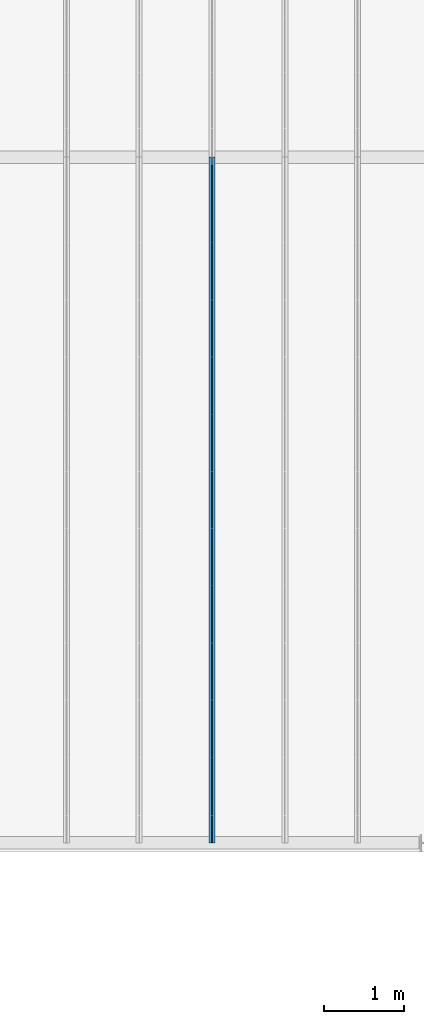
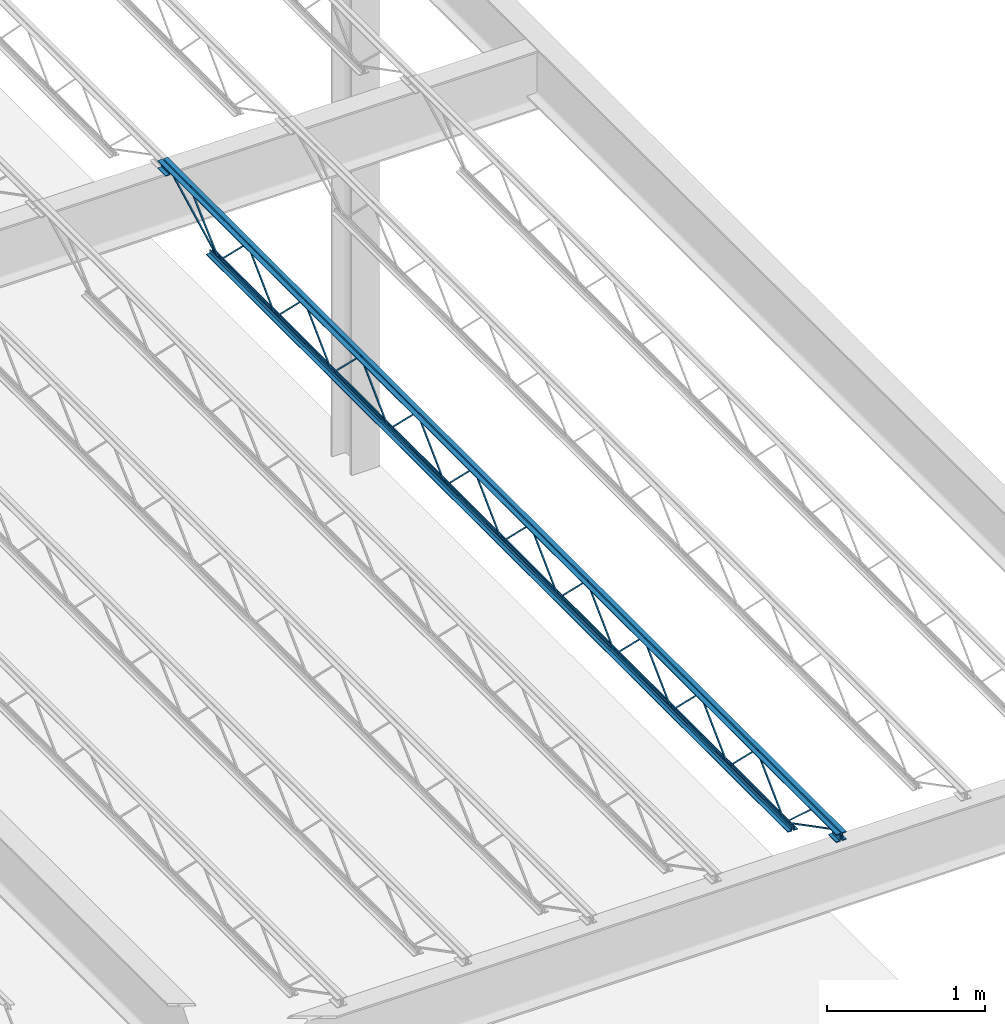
# One storey, part 68 of 119: 1 beam.
"""IFC2X3 building model written with IfcOpenShell, lengths in metres."""

from ifc_helpers import new_model, entity, si_unit, converted_unit, frame, origin, place, context, project, spatial, face_set, surface_model, element, save


model = new_model("IFC2X3")

# Units and contexts
model_context = context("Model", 3, precision=1e-09, world=origin())
plan_context = context("Plan", 3, precision=1e-09, world=origin())
ifc_project = project(units=[si_unit("LENGTHUNIT", "METRE"), si_unit("AREAUNIT", "SQUARE_METRE"), si_unit("VOLUMEUNIT", "CUBIC_METRE"), converted_unit("PLANEANGLEUNIT", "DEGREE", entity("IfcRatioMeasure", 0.01745329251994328), si_unit("PLANEANGLEUNIT", "RADIAN"), dimensions=[0, 0, 0, 0, 0, 0, 0]), si_unit("TIMEUNIT", "SECOND")], contexts=[model_context, plan_context])

# Site, building, storey
site_placement = place(None, origin())
site = spatial("IfcSite", under=ifc_project, at=site_placement, Name="Default", CompositionType="ELEMENT")
building_placement = place(site_placement, origin())
building = spatial("IfcBuilding", under=site, at=building_placement, CompositionType="ELEMENT")
storey_placement = place(building_placement, frame((0.0, 0.0, 4.570000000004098)))
storey = spatial("IfcBuildingStorey", under=building, at=storey_placement, Name="Second Floor", CompositionType="ELEMENT", Elevation=4.570000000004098)

# Beam
beam_placement = place(storey_placement, frame((-2.766750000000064, 10.03999999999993, 4.323999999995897)))
element("IfcBeam", 1, at=beam_placement, inside=storey, Name="M_K-Series Bar Joist-Rod Web:14K1:14K1", ObjectType="M_K-Series Bar Joist-Rod Web:14K1", context=model_context, shape_type="SurfaceModel", body=[
    surface_model("IfcFaceBasedSurfaceModel", [(0.04150000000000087, 6.428799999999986, 0.01110000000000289), (0.03200000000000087, 6.428799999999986, 0.01110000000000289), (0.03200000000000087, 6.428799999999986, 0.001600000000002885), (0.04150000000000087, 6.428799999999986, 0.001600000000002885), (0.03200000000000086, 6.430038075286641, 0.01110000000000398), (0.04150000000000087, 6.430038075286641, 0.01110000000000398), (0.03200000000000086, 6.433911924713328, 0.001600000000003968), (0.03200000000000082, 6.784861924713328, 0.3449000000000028), (0.03200000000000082, 6.78733807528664, 0.3449000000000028), (0.03200000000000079, 7.138288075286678, 0.001600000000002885), (0.03200000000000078, 7.143399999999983, 0.001600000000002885), (0.03200000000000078, 7.143399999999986, 0.01110000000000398), (0.03200000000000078, 7.142161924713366, 0.01110000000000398), (0.03200000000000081, 6.79121192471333, 0.3544000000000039), (0.03200000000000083, 6.780988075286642, 0.3544000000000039), (0.04150000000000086, 6.433911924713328, 0.001600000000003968), (0.04150000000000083, 6.784861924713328, 0.3449000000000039), (0.04150000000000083, 6.787338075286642, 0.3449000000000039), (0.04150000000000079, 7.138288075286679, 0.001600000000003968), (0.04150000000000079, 7.143399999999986, 0.001600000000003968), (0.04150000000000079, 7.143399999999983, 0.01110000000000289), (0.04150000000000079, 7.142161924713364, 0.01110000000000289), (0.04150000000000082, 6.791211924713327, 0.3544000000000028), (0.04150000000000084, 6.780988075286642, 0.3544000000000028), (0.04150000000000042, 5.714199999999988, 0.01110000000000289), (0.03200000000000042, 5.714199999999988, 0.01110000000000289), (0.03200000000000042, 5.714199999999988, 0.001600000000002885), (0.04150000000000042, 5.714199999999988, 0.001600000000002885), (0.03200000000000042, 5.715438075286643, 0.01110000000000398), (0.04150000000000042, 5.715438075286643, 0.01110000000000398), (0.03200000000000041, 5.71931192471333, 0.001600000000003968), (0.03200000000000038, 6.07026192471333, 0.3449000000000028), (0.03200000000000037, 6.072738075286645, 0.3449000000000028), (0.03200000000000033, 6.423688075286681, 0.001600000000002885), (0.03200000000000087, 6.428799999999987, 0.001600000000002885), (0.03200000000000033, 6.428799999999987, 0.01110000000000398), (0.03200000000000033, 6.427561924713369, 0.01110000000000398), (0.03200000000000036, 6.076611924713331, 0.3544000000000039), (0.03200000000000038, 6.066388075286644, 0.3544000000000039), (0.04150000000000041, 5.71931192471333, 0.001600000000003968), (0.04150000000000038, 6.07026192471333, 0.3449000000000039), (0.04150000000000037, 6.072738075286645, 0.3449000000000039), (0.04150000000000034, 6.423688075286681, 0.001600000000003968), (0.04150000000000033, 6.428799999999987, 0.001600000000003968), (0.04150000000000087, 6.428799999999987, 0.01110000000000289), (0.04150000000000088, 6.427561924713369, 0.01110000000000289), (0.04150000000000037, 6.076611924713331, 0.3544000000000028), (0.04150000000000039, 6.066388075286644, 0.3544000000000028), (0.04150000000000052, 4.999599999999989, 0.01110000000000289), (0.03200000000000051, 4.999599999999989, 0.01110000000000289), (0.03200000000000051, 4.999599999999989, 0.001600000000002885), (0.04150000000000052, 4.999599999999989, 0.001600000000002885), (0.03200000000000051, 5.000838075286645, 0.01110000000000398), (0.04150000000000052, 5.000838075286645, 0.01110000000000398), (0.0320000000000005, 5.004711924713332, 0.001600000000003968), (0.03200000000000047, 5.355661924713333, 0.3449000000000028), (0.03200000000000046, 5.358138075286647, 0.3449000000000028), (0.03200000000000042, 5.709088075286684, 0.001600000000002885), (0.03200000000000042, 5.714199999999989, 0.001600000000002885), (0.03200000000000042, 5.714199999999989, 0.01110000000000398), (0.03200000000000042, 5.712961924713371, 0.01110000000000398), (0.03200000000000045, 5.362011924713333, 0.3544000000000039), (0.03200000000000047, 5.351788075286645, 0.3544000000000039), (0.04150000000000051, 5.004711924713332, 0.001600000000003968), (0.04150000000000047, 5.355661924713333, 0.3449000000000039), (0.04150000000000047, 5.358138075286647, 0.3449000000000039), (0.04150000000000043, 5.709088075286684, 0.001600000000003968), (0.04150000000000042, 5.714199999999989, 0.001600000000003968), (0.04150000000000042, 5.714199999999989, 0.01110000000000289), (0.04150000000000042, 5.712961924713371, 0.01110000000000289), (0.04150000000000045, 5.362011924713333, 0.3544000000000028), (0.04150000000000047, 5.351788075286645, 0.3544000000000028), (0.04150000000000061, 4.284999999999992, 0.01110000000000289), (0.0320000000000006, 4.284999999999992, 0.01110000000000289), (0.0320000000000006, 4.284999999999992, 0.001600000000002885), (0.04150000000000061, 4.284999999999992, 0.001600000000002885), (0.0320000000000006, 4.286238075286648, 0.01110000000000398), (0.0415000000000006, 4.286238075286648, 0.01110000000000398), (0.03200000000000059, 4.290111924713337, 0.001600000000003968), (0.03200000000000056, 4.641061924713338, 0.3449000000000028), (0.03200000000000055, 4.643538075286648, 0.3449000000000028), (0.03200000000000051, 4.994488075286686, 0.001600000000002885), (0.03200000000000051, 4.999599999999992, 0.001600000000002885), (0.03200000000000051, 4.999599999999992, 0.01110000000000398), (0.03200000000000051, 4.998361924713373, 0.01110000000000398), (0.03200000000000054, 4.647411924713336, 0.3544000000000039), (0.03200000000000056, 4.637188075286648, 0.3544000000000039), (0.0415000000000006, 4.290111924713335, 0.001600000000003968), (0.04150000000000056, 4.641061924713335, 0.3449000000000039), (0.04150000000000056, 4.643538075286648, 0.3449000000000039), (0.04150000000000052, 4.994488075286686, 0.001600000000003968), (0.04150000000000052, 4.999599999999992, 0.001600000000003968), (0.04150000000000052, 4.999599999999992, 0.01110000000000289), (0.04150000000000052, 4.998361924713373, 0.01110000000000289), (0.04150000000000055, 4.647411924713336, 0.3544000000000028), (0.04150000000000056, 4.637188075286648, 0.3544000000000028), (0.04150000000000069, 3.570399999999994, 0.01110000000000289), (0.03200000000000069, 3.570399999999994, 0.01110000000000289), (0.03200000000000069, 3.570399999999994, 0.001600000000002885), (0.04150000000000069, 3.570399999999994, 0.001600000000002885), (0.03200000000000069, 3.57163807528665, 0.01110000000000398), (0.04150000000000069, 3.57163807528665, 0.01110000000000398), (0.03200000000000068, 3.575511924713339, 0.001600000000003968), (0.03200000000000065, 3.926461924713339, 0.3449000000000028), (0.03200000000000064, 3.928938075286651, 0.3449000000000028), (0.0320000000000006, 4.279888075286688, 0.001600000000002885), (0.0320000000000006, 4.284999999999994, 0.001600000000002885), (0.0320000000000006, 4.284999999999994, 0.01110000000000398), (0.0320000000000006, 4.283761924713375, 0.01110000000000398), (0.03200000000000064, 3.932811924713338, 0.3544000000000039), (0.03200000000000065, 3.92258807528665, 0.3544000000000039), (0.04150000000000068, 3.575511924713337, 0.001600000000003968), (0.04150000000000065, 3.926461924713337, 0.3449000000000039), (0.04150000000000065, 3.928938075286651, 0.3449000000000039), (0.04150000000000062, 4.279888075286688, 0.001600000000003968), (0.04150000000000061, 4.284999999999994, 0.001600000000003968), (0.04150000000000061, 4.284999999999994, 0.01110000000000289), (0.04150000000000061, 4.283761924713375, 0.01110000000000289), (0.04150000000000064, 3.93281192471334, 0.3544000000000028), (0.04150000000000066, 3.922588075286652, 0.3544000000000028), (0.04150000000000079, 2.855799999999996, 0.01110000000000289), (0.03200000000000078, 2.855799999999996, 0.01110000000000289), (0.03200000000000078, 2.855799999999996, 0.001600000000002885), (0.04150000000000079, 2.855799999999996, 0.001600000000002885), (0.03200000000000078, 2.857038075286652, 0.01110000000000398), (0.04150000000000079, 2.857038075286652, 0.01110000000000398), (0.03200000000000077, 2.860911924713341, 0.001600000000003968), (0.03200000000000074, 3.211861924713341, 0.3449000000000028), (0.03200000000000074, 3.214338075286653, 0.3449000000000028), (0.0320000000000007, 3.56528807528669, 0.001600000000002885), (0.03200000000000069, 3.570399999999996, 0.001600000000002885), (0.03200000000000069, 3.570399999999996, 0.01110000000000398), (0.03200000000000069, 3.569161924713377, 0.01110000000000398), (0.03200000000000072, 3.21821192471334, 0.3544000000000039), (0.03200000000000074, 3.207988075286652, 0.3544000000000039), (0.04150000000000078, 2.860911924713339, 0.001600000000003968), (0.04150000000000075, 3.21186192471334, 0.3449000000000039), (0.04150000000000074, 3.214338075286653, 0.3449000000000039), (0.0415000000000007, 3.56528807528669, 0.001600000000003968), (0.04150000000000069, 3.570399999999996, 0.001600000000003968), (0.04150000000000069, 3.570399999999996, 0.01110000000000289), (0.0415000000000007, 3.569161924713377, 0.01110000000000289), (0.04150000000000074, 3.218211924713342, 0.3544000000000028), (0.04150000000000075, 3.207988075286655, 0.3544000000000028), (0.04150000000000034, 2.1412, 0.01110000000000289), (0.03200000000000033, 2.1412, 0.01110000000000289), (0.03200000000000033, 2.1412, 0.001600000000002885), (0.04150000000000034, 2.1412, 0.001600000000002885), (0.03200000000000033, 2.142438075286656, 0.01110000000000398), (0.04150000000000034, 2.142438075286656, 0.01110000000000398), (0.03200000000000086, 2.146311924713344, 0.001600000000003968), (0.03200000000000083, 2.497261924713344, 0.3449000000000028), (0.03200000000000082, 2.499738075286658, 0.3449000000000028), (0.03200000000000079, 2.850688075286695, 0.001600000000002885), (0.03200000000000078, 2.8558, 0.001600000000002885), (0.03200000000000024, 2.8558, 0.01110000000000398), (0.03200000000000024, 2.854561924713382, 0.01110000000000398), (0.03200000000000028, 2.503611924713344, 0.3544000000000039), (0.03200000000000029, 2.493388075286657, 0.3544000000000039), (0.04150000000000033, 2.146311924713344, 0.001600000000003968), (0.04150000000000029, 2.497261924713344, 0.3449000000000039), (0.04150000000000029, 2.499738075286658, 0.3449000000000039), (0.04150000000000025, 2.850688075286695, 0.001600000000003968), (0.04150000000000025, 2.8558, 0.001600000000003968), (0.04150000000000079, 2.8558, 0.01110000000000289), (0.04150000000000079, 2.854561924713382, 0.01110000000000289), (0.04150000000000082, 2.503611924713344, 0.3544000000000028), (0.04150000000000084, 2.493388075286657, 0.3544000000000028), (0.04150000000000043, 1.426600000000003, 0.01110000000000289), (0.03200000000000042, 1.426600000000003, 0.01110000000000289), (0.03200000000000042, 1.426600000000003, 0.001600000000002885), (0.04150000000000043, 1.426600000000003, 0.001600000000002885), (0.03200000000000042, 1.427838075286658, 0.01110000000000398), (0.04150000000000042, 1.427838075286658, 0.01110000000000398), (0.03200000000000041, 1.431711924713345, 0.001600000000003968), (0.03200000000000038, 1.782661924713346, 0.3449000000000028), (0.03200000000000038, 1.78513807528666, 0.3449000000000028), (0.03200000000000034, 2.136088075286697, 0.001600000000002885), (0.03200000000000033, 2.141200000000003, 0.001600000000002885), (0.03200000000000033, 2.141200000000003, 0.01110000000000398), (0.03200000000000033, 2.139961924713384, 0.01110000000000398), (0.03200000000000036, 1.789011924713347, 0.3544000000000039), (0.03200000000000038, 1.778788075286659, 0.3544000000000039), (0.04150000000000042, 1.431711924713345, 0.001600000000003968), (0.04150000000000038, 1.782661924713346, 0.3449000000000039), (0.04150000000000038, 1.78513807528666, 0.3449000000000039), (0.04150000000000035, 2.136088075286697, 0.001600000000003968), (0.04150000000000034, 2.141200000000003, 0.001600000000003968), (0.04150000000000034, 2.141200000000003, 0.01110000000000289), (0.04150000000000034, 2.139961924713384, 0.01110000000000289), (0.04150000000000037, 1.789011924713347, 0.3544000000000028), (0.04150000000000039, 1.778788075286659, 0.3544000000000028), (0.04150000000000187, 7.143399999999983, 0.01109999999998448), (0.03200000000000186, 7.143399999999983, 0.01109999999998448), (0.03200000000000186, 7.143399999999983, 0.001599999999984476), (0.04150000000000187, 7.143399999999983, 0.001599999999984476), (0.03200000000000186, 7.144638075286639, 0.01109999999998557), (0.04150000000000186, 7.144638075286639, 0.01109999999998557), (0.03200000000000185, 7.148511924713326, 0.001599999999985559), (0.03200000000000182, 7.499461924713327, 0.3448999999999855), (0.03200000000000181, 7.501938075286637, 0.3448999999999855), (0.03200000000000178, 7.852888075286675, 0.001599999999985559), (0.03200000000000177, 7.857999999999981, 0.001599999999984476), (0.03200000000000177, 7.857999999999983, 0.01109999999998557), (0.03200000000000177, 7.856761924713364, 0.01109999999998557), (0.03200000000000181, 7.505811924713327, 0.3543999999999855), (0.03200000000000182, 7.495588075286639, 0.3543999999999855), (0.04150000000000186, 7.148511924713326, 0.001599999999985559), (0.04150000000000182, 7.499461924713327, 0.3448999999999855), (0.04150000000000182, 7.50193807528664, 0.3448999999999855), (0.04150000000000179, 7.852888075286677, 0.001599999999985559), (0.04150000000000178, 7.857999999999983, 0.001599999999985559), (0.04150000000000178, 7.857999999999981, 0.01109999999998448), (0.04150000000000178, 7.856761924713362, 0.01109999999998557), (0.04150000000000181, 7.505811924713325, 0.3543999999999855), (0.04150000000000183, 7.495588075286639, 0.3543999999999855), (0.04150000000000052, 0.712000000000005, 0.01110000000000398), (0.03200000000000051, 0.712000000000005, 0.01110000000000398), (0.03200000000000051, 0.712000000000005, 0.001600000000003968), (0.04150000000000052, 0.712000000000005, 0.001600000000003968), (0.03200000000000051, 0.7132380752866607, 0.01110000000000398), (0.04150000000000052, 0.7132380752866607, 0.01110000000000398), (0.03200000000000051, 0.7171119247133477, 0.001600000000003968), (0.03200000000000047, 1.068061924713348, 0.3449000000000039), (0.03200000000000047, 1.070538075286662, 0.3449000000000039), (0.03200000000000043, 1.421488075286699, 0.001600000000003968), (0.03200000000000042, 1.426600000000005, 0.001600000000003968), (0.03200000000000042, 1.426600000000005, 0.01110000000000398), (0.03200000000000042, 1.425361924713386, 0.01110000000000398), (0.03200000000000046, 1.074411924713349, 0.3544000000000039), (0.03200000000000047, 1.064188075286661, 0.3544000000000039), (0.04150000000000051, 0.7171119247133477, 0.001600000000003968), (0.04150000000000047, 1.068061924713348, 0.3449000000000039), (0.04150000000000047, 1.070538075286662, 0.3449000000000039), (0.04150000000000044, 1.421488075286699, 0.001600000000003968), (0.04150000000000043, 1.426600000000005, 0.001600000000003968), (0.04150000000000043, 1.426600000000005, 0.01110000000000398), (0.04150000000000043, 1.425361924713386, 0.01110000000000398), (0.04150000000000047, 1.074411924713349, 0.3544000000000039), (0.04150000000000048, 1.064188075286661, 0.3544000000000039), (0.0320000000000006, 8.57, 0.3559999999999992), (0.0, 8.57, 0.3559999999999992), (0.0, 8.57, 0.3494999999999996), (0.02550000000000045, 8.57, 0.3494999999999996), (0.02550000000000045, 8.57, 0.3239999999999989), (0.0320000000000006, 8.57, 0.3239999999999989), (0.04150000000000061, 8.57, 0.3559999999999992), (0.04150000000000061, 8.57, 0.3239999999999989), (0.04800000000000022, 8.57, 0.3239999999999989), (0.04800000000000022, 8.57, 0.3494999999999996), (0.07350000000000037, 8.57, 0.3494999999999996), (0.07350000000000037, 8.57, 0.3559999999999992), (0.0320000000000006, 0.0, 0.3559999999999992), (0.0, 0.0, 0.3559999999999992), (0.0, 0.0, 0.3494999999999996), (0.02550000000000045, 0.0, 0.3494999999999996), (0.02550000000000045, 0.0, 0.3239999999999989), (0.0320000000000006, 0.0, 0.3239999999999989), (0.04150000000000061, 0.0, 0.3559999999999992), (0.04150000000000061, 0.0, 0.3239999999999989), (0.04800000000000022, 0.0, 0.3239999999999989), (0.04800000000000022, 0.0, 0.3494999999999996), (0.07350000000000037, 0.0, 0.3494999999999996), (0.07350000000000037, 0.0, 0.3559999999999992), (0.0414999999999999, 0.09999999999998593, 0.2924999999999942), (0.0735000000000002, 0.09999999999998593, 0.2924999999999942), (0.0735000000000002, 0.09999999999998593, 0.2989999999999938), (0.04800000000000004, 0.09999999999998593, 0.2989999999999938), (0.04800000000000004, 0.09999999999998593, 0.3239999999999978), (0.0414999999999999, 0.09999999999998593, 0.3239999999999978), (0.0, 0.09999999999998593, 0.2924999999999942), (0.03199999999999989, 0.09999999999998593, 0.2924999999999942), (0.03199999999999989, 0.09999999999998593, 0.3239999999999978), (0.02549999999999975, 0.09999999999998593, 0.3239999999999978), (0.02549999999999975, 0.09999999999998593, 0.2989999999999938), (0.0, 0.09999999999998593, 0.2989999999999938), (0.04150000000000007, 0.0, 0.2924999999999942), (0.07350000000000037, 0.0, 0.2924999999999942), (0.07350000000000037, 0.0, 0.2989999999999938), (0.04800000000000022, 0.0, 0.2989999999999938), (0.04800000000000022, 0.0, 0.3239999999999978), (0.04150000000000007, 0.0, 0.3239999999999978), (0.0, 0.0, 0.2924999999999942), (0.03200000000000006, 0.0, 0.2924999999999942), (0.03200000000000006, 0.0, 0.3239999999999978), (0.02549999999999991, 0.0, 0.3239999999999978), (0.02549999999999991, 0.0, 0.2989999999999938), (0.0, 0.0, 0.2989999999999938), (0.0320000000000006, 8.57, 0.2924999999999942), (0.0320000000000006, 8.57, 0.3239999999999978), (0.02550000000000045, 8.57, 0.3239999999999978), (0.02550000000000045, 8.57, 0.2989999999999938), (0.0, 8.57, 0.2989999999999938), (0.0, 8.57, 0.2924999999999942), (0.04150000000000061, 8.57, 0.2924999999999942), (0.07350000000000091, 8.57, 0.2924999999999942), (0.07350000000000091, 8.57, 0.2989999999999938), (0.04800000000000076, 8.57, 0.2989999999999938), (0.04800000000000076, 8.57, 0.3239999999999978), (0.04150000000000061, 8.57, 0.3239999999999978), (0.03200000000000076, 8.47, 0.2924999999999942), (0.03200000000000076, 8.47, 0.3239999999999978), (0.02550000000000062, 8.47, 0.3239999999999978), (0.02550000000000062, 8.47, 0.2989999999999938), (0.0, 8.47, 0.2989999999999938), (0.0, 8.47, 0.2924999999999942), (0.04150000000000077, 8.47, 0.2924999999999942), (0.07350000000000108, 8.47, 0.2924999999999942), (0.07350000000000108, 8.47, 0.2989999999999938), (0.04800000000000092, 8.47, 0.2989999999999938), (0.04800000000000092, 8.47, 0.3239999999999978), (0.04150000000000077, 8.47, 0.3239999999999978), (0.03200000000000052, 7.958000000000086, 0.0), (0.03200000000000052, 7.958000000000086, 0.03199999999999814), (0.02550000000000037, 7.958000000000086, 0.03199999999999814), (0.02550000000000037, 7.958000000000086, 0.006499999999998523), (0.0, 7.958000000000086, 0.006499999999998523), (0.0, 7.958000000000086, 0.0), (0.04150000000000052, 7.958000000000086, 0.0), (0.07350000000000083, 7.958000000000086, 0.0), (0.07350000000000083, 7.958000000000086, 0.006499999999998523), (0.04800000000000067, 7.958000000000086, 0.006499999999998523), (0.04800000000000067, 7.958000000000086, 0.03199999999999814), (0.04150000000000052, 7.958000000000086, 0.03199999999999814), (0.03200000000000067, 0.6120000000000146, 0.0), (0.03200000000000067, 0.6120000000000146, 0.03199999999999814), (0.02550000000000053, 0.6120000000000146, 0.03199999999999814), (0.02550000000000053, 0.6120000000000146, 0.006499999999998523), (0.0, 0.6120000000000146, 0.006499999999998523), (0.0, 0.6120000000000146, 0.0), (0.04150000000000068, 0.6120000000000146, 0.0), (0.073500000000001, 0.6120000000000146, 0.0), (0.073500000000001, 0.6120000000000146, 0.006499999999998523), (0.04800000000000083, 0.6120000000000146, 0.006499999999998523), (0.04800000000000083, 0.6120000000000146, 0.03199999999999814), (0.04150000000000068, 0.6120000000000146, 0.03199999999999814), (0.04150000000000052, 0.7141882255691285, 0.01056594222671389), (0.03200000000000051, 0.7141882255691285, 0.01056594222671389), (0.03200000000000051, 0.7098117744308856, 0.002134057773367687), (0.04150000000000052, 0.7098117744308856, 0.00213405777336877), (0.04150000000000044, 0.1011592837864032, 0.3287499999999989), (0.04150000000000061, 0.0, 0.3287499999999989), (0.04150000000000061, 0.0, 0.3192499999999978), (0.04150000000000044, 0.09884071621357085, 0.3192499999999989), (0.03200000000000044, 0.09884071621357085, 0.3192499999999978), (0.03200000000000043, 0.1011592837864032, 0.3287499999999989), (0.0320000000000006, 0.0, 0.3287499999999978), (0.0320000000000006, 0.0, 0.3192499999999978), (0.0415000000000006, 0.3347428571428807, 0.3417000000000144), (0.03200000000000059, 0.3347428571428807, 0.3417000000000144), (0.03200000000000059, 0.3347428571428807, 0.3322000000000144), (0.0415000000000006, 0.3347428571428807, 0.3322000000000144), (0.03200000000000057, 0.349275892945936, 0.3417000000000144), (0.04150000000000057, 0.349275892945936, 0.3417000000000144), (0.03200000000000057, 0.3456098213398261, 0.3322000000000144), (0.03200000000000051, 0.7088091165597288, 0.002831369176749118), (0.03200000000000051, 0.7151908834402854, 0.009868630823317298), (0.04150000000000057, 0.3456098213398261, 0.3322000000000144), (0.04150000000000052, 0.7088091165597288, 0.002831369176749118), (0.04150000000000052, 0.7151908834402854, 0.009868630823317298), (0.04150000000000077, 8.472188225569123, 0.3197840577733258), (0.04150000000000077, 8.467811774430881, 0.328215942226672), (0.03200000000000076, 8.467811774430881, 0.328215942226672), (0.03200000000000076, 8.472188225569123, 0.3197840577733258), (0.04150000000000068, 7.860188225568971, 0.002134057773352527), (0.04150000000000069, 7.855811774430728, 0.01056594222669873), (0.03200000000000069, 7.855811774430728, 0.01056594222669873), (0.03200000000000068, 7.860188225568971, 0.002134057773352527), (0.04150000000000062, 8.233036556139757, 0.3461600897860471), (0.04150000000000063, 8.22659201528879, 0.3531399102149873), (0.03200000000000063, 8.22659201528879, 0.3531399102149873), (0.03200000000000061, 8.233036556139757, 0.3461600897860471), (0.04150000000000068, 7.861222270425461, 0.00286008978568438), (0.04150000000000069, 7.854777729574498, 0.009839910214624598), (0.03200000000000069, 7.854777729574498, 0.009839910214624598), (0.03200000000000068, 7.861222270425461, 0.00286008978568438)], [face_set([[[0, 1, 2, 3]], [[1, 4, 5, 0]], [[2, 6, 7, 8, 9, 10, 11, 12, 13, 14, 4, 1]], [[3, 2, 6, 15]], [[0, 3, 15, 16, 17, 18, 19, 20, 21, 22, 23, 5]], [[4, 5, 23, 14]], [[15, 16, 7, 6]], [[14, 13, 22, 23]], [[16, 7, 8, 17]], [[13, 12, 21, 22]], [[17, 8, 9, 18]], [[20, 11, 10, 19]], [[12, 11, 20, 21]], [[18, 9, 10, 19]]]), face_set([[[24, 25, 26, 27]], [[25, 28, 29, 24]], [[26, 30, 31, 32, 33, 34, 35, 36, 37, 38, 28, 25]], [[27, 26, 30, 39]], [[24, 27, 39, 40, 41, 42, 43, 44, 45, 46, 47, 29]], [[28, 29, 47, 38]], [[39, 40, 31, 30]], [[38, 37, 46, 47]], [[40, 31, 32, 41]], [[37, 36, 45, 46]], [[41, 32, 33, 42]], [[44, 35, 34, 43]], [[36, 35, 44, 45]], [[42, 33, 34, 43]]]), face_set([[[48, 49, 50, 51]], [[49, 52, 53, 48]], [[50, 54, 55, 56, 57, 58, 59, 60, 61, 62, 52, 49]], [[51, 50, 54, 63]], [[48, 51, 63, 64, 65, 66, 67, 68, 69, 70, 71, 53]], [[52, 53, 71, 62]], [[63, 64, 55, 54]], [[62, 61, 70, 71]], [[64, 55, 56, 65]], [[61, 60, 69, 70]], [[65, 56, 57, 66]], [[68, 59, 58, 67]], [[60, 59, 68, 69]], [[66, 57, 58, 67]]]), face_set([[[72, 73, 74, 75]], [[73, 76, 77, 72]], [[74, 78, 79, 80, 81, 82, 83, 84, 85, 86, 76, 73]], [[75, 74, 78, 87]], [[72, 75, 87, 88, 89, 90, 91, 92, 93, 94, 95, 77]], [[76, 77, 95, 86]], [[87, 88, 79, 78]], [[86, 85, 94, 95]], [[88, 79, 80, 89]], [[85, 84, 93, 94]], [[89, 80, 81, 90]], [[92, 83, 82, 91]], [[84, 83, 92, 93]], [[90, 81, 82, 91]]]), face_set([[[96, 97, 98, 99]], [[97, 100, 101, 96]], [[98, 102, 103, 104, 105, 106, 107, 108, 109, 110, 100, 97]], [[99, 98, 102, 111]], [[96, 99, 111, 112, 113, 114, 115, 116, 117, 118, 119, 101]], [[100, 101, 119, 110]], [[111, 112, 103, 102]], [[110, 109, 118, 119]], [[112, 103, 104, 113]], [[109, 108, 117, 118]], [[113, 104, 105, 114]], [[116, 107, 106, 115]], [[108, 107, 116, 117]], [[114, 105, 106, 115]]]), face_set([[[120, 121, 122, 123]], [[121, 124, 125, 120]], [[122, 126, 127, 128, 129, 130, 131, 132, 133, 134, 124, 121]], [[123, 122, 126, 135]], [[120, 123, 135, 136, 137, 138, 139, 140, 141, 142, 143, 125]], [[124, 125, 143, 134]], [[135, 136, 127, 126]], [[134, 133, 142, 143]], [[136, 127, 128, 137]], [[133, 132, 141, 142]], [[137, 128, 129, 138]], [[140, 131, 130, 139]], [[132, 131, 140, 141]], [[138, 129, 130, 139]]]), face_set([[[144, 145, 146, 147]], [[145, 148, 149, 144]], [[146, 150, 151, 152, 153, 154, 155, 156, 157, 158, 148, 145]], [[147, 146, 150, 159]], [[144, 147, 159, 160, 161, 162, 163, 164, 165, 166, 167, 149]], [[148, 149, 167, 158]], [[159, 160, 151, 150]], [[158, 157, 166, 167]], [[160, 151, 152, 161]], [[157, 156, 165, 166]], [[161, 152, 153, 162]], [[164, 155, 154, 163]], [[156, 155, 164, 165]], [[162, 153, 154, 163]]]), face_set([[[168, 169, 170, 171]], [[169, 172, 173, 168]], [[170, 174, 175, 176, 177, 178, 179, 180, 181, 182, 172, 169]], [[171, 170, 174, 183]], [[168, 171, 183, 184, 185, 186, 187, 188, 189, 190, 191, 173]], [[172, 173, 191, 182]], [[183, 184, 175, 174]], [[182, 181, 190, 191]], [[184, 175, 176, 185]], [[181, 180, 189, 190]], [[185, 176, 177, 186]], [[188, 179, 178, 187]], [[180, 179, 188, 189]], [[186, 177, 178, 187]]]), face_set([[[192, 193, 194, 195]], [[193, 196, 197, 192]], [[194, 198, 199, 200, 201, 202, 203, 204, 205, 206, 196, 193]], [[195, 194, 198, 207]], [[192, 195, 207, 208, 209, 210, 211, 212, 213, 214, 215, 197]], [[196, 197, 215, 206]], [[207, 208, 199, 198]], [[206, 205, 214, 215]], [[208, 199, 200, 209]], [[205, 204, 213, 214]], [[209, 200, 201, 210]], [[212, 203, 202, 211]], [[204, 203, 212, 213]], [[210, 201, 202, 211]]]), face_set([[[216, 217, 218, 219]], [[217, 220, 221, 216]], [[218, 222, 223, 224, 225, 226, 227, 228, 229, 230, 220, 217]], [[219, 218, 222, 231]], [[216, 219, 231, 232, 233, 234, 235, 236, 237, 238, 239, 221]], [[220, 221, 239, 230]], [[231, 232, 223, 222]], [[230, 229, 238, 239]], [[232, 223, 224, 233]], [[229, 228, 237, 238]], [[233, 224, 225, 234]], [[236, 227, 226, 235]], [[228, 227, 236, 237]], [[234, 225, 226, 235]]]), face_set([[[240, 241, 242, 243, 244, 245]], [[246, 247, 248, 249, 250, 251]], [[252, 253, 254, 255, 256, 257]], [[258, 259, 260, 261, 262, 263]], [[245, 240, 252, 257]], [[244, 245, 257, 256]], [[243, 255, 256, 244]], [[242, 243, 255, 254]], [[241, 253, 254, 242]], [[240, 252, 253, 241]], [[251, 263, 258, 246]], [[250, 251, 263, 262]], [[249, 250, 262, 261]], [[248, 249, 261, 260]], [[247, 248, 260, 259]], [[246, 258, 259, 247]]]), face_set([[[264, 265, 266, 267, 268, 269]], [[270, 271, 272, 273, 274, 275]], [[276, 277, 278, 279, 280, 281]], [[282, 283, 284, 285, 286, 287]], [[269, 281, 276, 264]], [[268, 280, 281, 269]], [[267, 268, 280, 279]], [[266, 278, 279, 267]], [[265, 266, 278, 277]], [[264, 265, 277, 276]], [[275, 287, 282, 270]], [[274, 286, 287, 275]], [[273, 285, 286, 274]], [[272, 284, 285, 273]], [[271, 272, 284, 283]], [[270, 271, 283, 282]]]), face_set([[[288, 289, 290, 291, 292, 293]], [[294, 295, 296, 297, 298, 299]], [[300, 301, 302, 303, 304, 305]], [[306, 307, 308, 309, 310, 311]], [[293, 288, 300, 305]], [[292, 304, 305, 293]], [[291, 303, 304, 292]], [[290, 302, 303, 291]], [[289, 301, 302, 290]], [[288, 289, 301, 300]], [[299, 311, 306, 294]], [[298, 310, 311, 299]], [[297, 298, 310, 309]], [[296, 308, 309, 297]], [[295, 296, 308, 307]], [[294, 295, 307, 306]]]), face_set([[[312, 313, 314, 315, 316, 317]], [[318, 319, 320, 321, 322, 323]], [[324, 325, 326, 327, 328, 329]], [[330, 331, 332, 333, 334, 335]], [[317, 312, 324, 329]], [[316, 328, 329, 317]], [[315, 327, 328, 316]], [[314, 326, 327, 315]], [[313, 325, 326, 314]], [[312, 313, 325, 324]], [[323, 335, 330, 318]], [[322, 334, 335, 323]], [[321, 322, 334, 333]], [[320, 332, 333, 321]], [[319, 320, 332, 331]], [[318, 319, 331, 330]]]), face_set([[[336, 337, 338, 339]], [[339, 336, 340, 341, 342, 343]], [[338, 339, 343, 344]], [[337, 345, 346, 347, 344, 338]], [[336, 340, 345, 337]], [[341, 346, 347, 342]], [[344, 343, 342, 347]], [[340, 341, 346, 345]]]), face_set([[[348, 349, 350, 351]], [[349, 352, 353, 348]], [[350, 354, 355, 356, 352, 349]], [[351, 350, 354, 357]], [[348, 351, 357, 358, 359, 353]], [[359, 356, 355, 358]], [[352, 356, 359, 353]], [[357, 354, 355, 358]]]), face_set([[[360, 361, 362, 363]], [[364, 365, 366, 367]], [[363, 360, 364, 367]], [[362, 366, 367, 363]], [[361, 365, 366, 362]], [[360, 361, 365, 364]]]), face_set([[[368, 369, 370, 371]], [[372, 373, 374, 375]], [[371, 375, 372, 368]], [[370, 374, 375, 371]], [[369, 370, 374, 373]], [[368, 369, 373, 372]]])]),
])

save(model, "model.ifc")
